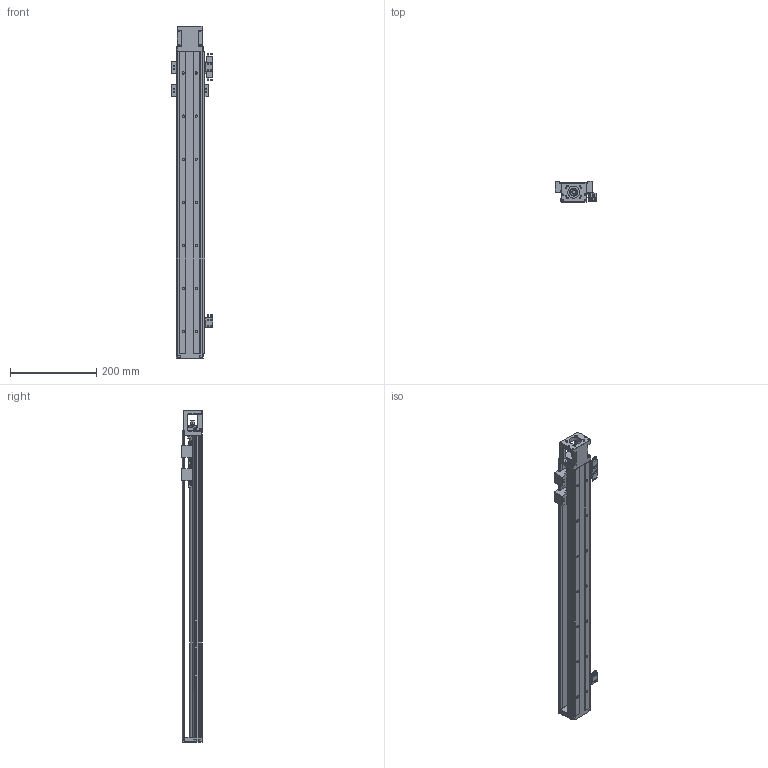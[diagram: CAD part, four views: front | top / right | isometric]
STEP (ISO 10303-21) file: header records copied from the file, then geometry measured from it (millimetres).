
FILE_DESCRIPTION (( 'STEP AP214' ), '1' );
FILE_NAME ('SFKK60-700S2-F0C.STEP', '2023-02-11T09:09:27', ( '微软用户' ), ( '微软中国' ), 'SwSTEP 2.0', 'SolidWorks 2018', '' );
FILE_SCHEMA (( 'AUTOMOTIVE_DESIGN' ));
Length unit declared in the file: millimetre
Products named in the file (9): SFKK60-700S2-F0C; SFKK60C-S1-C; SX674嫖萇羲壽; 带盖挡光片：KK-60-S2-D1; 极限轨道与开关固定座组合_700; SFKK-60-CU_700; 开关固定座：KK-674S2-F; SFKK60-F0_700; SFKK60-LR 憤癹寢耋_700
Assembly tree (12 placements, depth 3):
  SFKK60-700S2-F0C
    SFKK60-F0_700
    SFKK60C-S1-C  x2
    极限轨道与开关固定座组合_700
      SFKK60-LR 憤癹寢耋_700
      开关固定座：KK-674S2-F  x2
    SX674嫖萇羲壽  x3
    SFKK-60-CU_700
    带盖挡光片：KK-60-S2-D1
Bounding box: 96.4 x 48 x 770 mm (x, y, z)
Volume: 899622.7 mm3; surface area: 392188.7 mm2
Topology: 54 solids, 64 shells, 2669 faces, 7021 edges, 4529 vertices
Faces by surface type: plane 1381, cylinder 978, cone 184, torus 63, bspline 40, sphere 23
Entity records: 75331 total; most frequent: CARTESIAN_POINT 18621, DIRECTION 9247, ORIENTED_EDGE 8954, EDGE_CURVE 4477, AXIS2_PLACEMENT_3D 3261, VERTEX_POINT 2897, LINE 2725, VECTOR 2725
